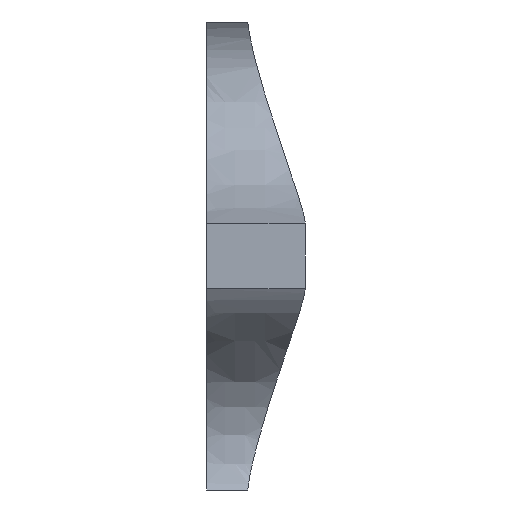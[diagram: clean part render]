
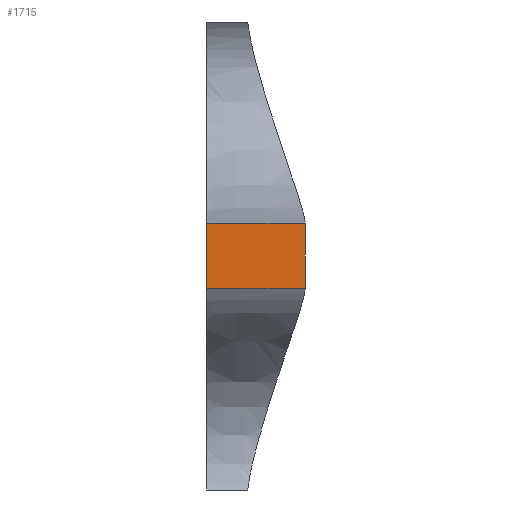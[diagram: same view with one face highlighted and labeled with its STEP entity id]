
A CAD part, left-side view. The second image highlights one B-rep face of the part: STEP entity #1715.
In plain terms, the highlighted planar face has unit normal (-1, 0, 0).
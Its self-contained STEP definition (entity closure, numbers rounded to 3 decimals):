
#28=CARTESIAN_POINT('',(0.,90.406,-90.));
#116=CARTESIAN_POINT('',(0.,90.406,-90.));
#117=CARTESIAN_POINT('',(0.,90.405,-81.425));
#118=CARTESIAN_POINT('',(0.,89.992,-64.957));
#119=CARTESIAN_POINT('',(0.,90.006,-43.108));
#120=CARTESIAN_POINT('',(0.,89.999,-21.663));
#121=CARTESIAN_POINT('',(0.,90.001,-0.015));
#122=CARTESIAN_POINT('',(0.,89.999,21.619));
#123=CARTESIAN_POINT('',(0.,90.006,43.045));
#124=CARTESIAN_POINT('',(0.,89.992,64.889));
#125=CARTESIAN_POINT('',(0.,90.405,81.397));
#126=CARTESIAN_POINT('',(0.,90.406,90.));
#208=CARTESIAN_POINT('',(0.,90.406,90.));
#504=CARTESIAN_POINT('',(0.,360.065,-90.));
#519=CARTESIAN_POINT('',(0.,360.065,90.));
#778=DIRECTION('',(0.,0.,-1.));
#779=VECTOR('',#778,180.);
#780=CARTESIAN_POINT('',(0.,360.065,90.));
#781=LINE('',#780,#779);
#786=DIRECTION('',(0.,1.,0.));
#787=VECTOR('',#786,269.659);
#788=CARTESIAN_POINT('',(0.,90.406,-90.));
#789=LINE('',#788,#787);
#790=DIRECTION('',(0.,1.,0.));
#791=VECTOR('',#790,269.659);
#792=CARTESIAN_POINT('',(0.,90.406,90.));
#793=LINE('',#792,#791);
#794=VERTEX_POINT('',#28);
#799=VERTEX_POINT('',#208);
#801=VERTEX_POINT('',#504);
#804=VERTEX_POINT('',#519);
#1704=CARTESIAN_POINT('',(0.,0.,-1219.621));
#1705=DIRECTION('',(1.,0.,0.));
#1706=DIRECTION('',(0.,1.,0.));
#1707=AXIS2_PLACEMENT_3D('',#1704,#1705,#1706);
#1708=PLANE('',#1707);
#1709=ORIENTED_EDGE('',*,*,#1386,.T.);
#1710=ORIENTED_EDGE('',*,*,#1415,.F.);
#1711=ORIENTED_EDGE('',*,*,#1697,.F.);
#1712=ORIENTED_EDGE('',*,*,#1104,.F.);
#1713=EDGE_LOOP('',(#1709,#1710,#1711,#1712));
#1714=FACE_OUTER_BOUND('',#1713,.F.);
#127=B_SPLINE_CURVE_WITH_KNOTS('',3,(#116,#117,#118,#119,#120,#121,#122,#123,
#124,#125,#126),.UNSPECIFIED.,.F.,.F.,(4,1,1,1,1,1,1,1,4),(0.,0.125,0.25,
0.375,0.5,0.625,0.75,0.875,1.),.UNSPECIFIED.);
#1104=EDGE_CURVE('',#794,#799,#127,.T.);
#1386=EDGE_CURVE('',#794,#801,#789,.T.);
#1415=EDGE_CURVE('',#804,#801,#781,.T.);
#1697=EDGE_CURVE('',#799,#804,#793,.T.);
#1715=ADVANCED_FACE('',(#1714),#1708,.F.);
